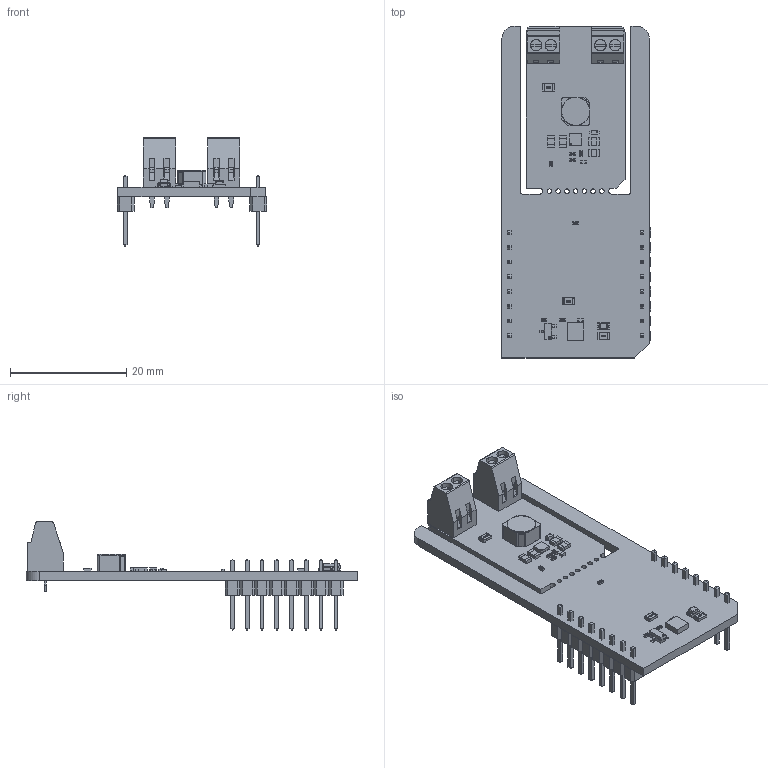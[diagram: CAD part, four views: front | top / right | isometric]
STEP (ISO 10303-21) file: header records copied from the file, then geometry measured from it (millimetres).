
FILE_DESCRIPTION(('Open CASCADE Model'),'2;1');
FILE_NAME('Open CASCADE Shape Model','2025-12-03T15:10:40',('Author'),( 'Open CASCADE'),'Open CASCADE STEP processor 6.8','Open CASCADE 6.8' ,'Unknown');
FILE_SCHEMA(('AUTOMOTIVE_DESIGN { 1 0 10303 214 1 1 1 1 }'));
Length unit declared in the file: millimetre
Products named in the file (45): PCB; Board; TB2; ScrewTerminal_2.54; TB1; U2; OPT3001DNPT; R6; User_Library-R_0402; R7; R5; R3; L1; User_Library-CDRH4D28; D1; SOD-523F; C6; User_Library-SMD_CAPACITOR0402; C2; User_Library-SMD_CAPACITOR0805; R4; MBD1; Header_1x8; Free-Models; 1240637040; User_Library-PinHeaderX5-1_PinHeaderX5_Body_1; User_Library-PinHeaderX5-1_PinHeaderX5_Pins_1; JP1; User_Library-R_0805; JP2; R8; C3; C4; C5; U1; -1721013040; Extruded; Q1; SOT23-3; C1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
Assembly tree (59 placements, depth 7):
  PCB
    Board
    TB2
      ScrewTerminal_2.54
    TB1
      ScrewTerminal_2.54
    U2
      OPT3001DNPT
    R6
      User_Library-R_0402
    R7
      User_Library-R_0402
    R5
      User_Library-R_0402
    R3
      User_Library-R_0402
    L1
      User_Library-CDRH4D28
    D1
      SOD-523F
    C6
      User_Library-SMD_CAPACITOR0402
    C2
      User_Library-SMD_CAPACITOR0805
    R4
      User_Library-R_0402
    MBD1
      Header_1x8  x2
        PCB
          Free-Models
            1240637040  x2
              User_Library-PinHeaderX5-1_PinHeaderX5_Body_1
              User_Library-PinHeaderX5-1_PinHeaderX5_Pins_1
    JP1
      User_Library-R_0805
    JP2
      User_Library-R_0805
    R8
      User_Library-R_0402
    C3
      User_Library-SMD_CAPACITOR0805
    C4
      User_Library-SMD_CAPACITOR0805
    C5
      User_Library-SMD_CAPACITOR0805
    U1
      -1721013040
        Extruded
    Q1
      SOT23-3
    C1
      User_Library-SMD_CAPACITOR0402
    R2
      User_Library-R_0402
    LD1
      led_0805_green
    R1
      User_Library-R_0805
Bounding box: 25.78 x 57.15 x 18.61 mm (x, y, z)
Volume: 3101.8 mm3; surface area: 6213.1 mm2
Topology: 88 solids, 88 shells, 2405 faces, 6056 edges, 3872 vertices
Faces by surface type: plane 1775, bspline 314, cylinder 256, sphere 54, cone 4, torus 2
Full cylindrical faces by diameter (mm): 0.8 x7
Entity records: 38592 total; most frequent: CARTESIAN_POINT 9706, ORIENTED_EDGE 5024, DIRECTION 4657, EDGE_CURVE 2512, LINE 2031, VECTOR 2031, VERTEX_POINT 1620, AXIS2_PLACEMENT_3D 1313
